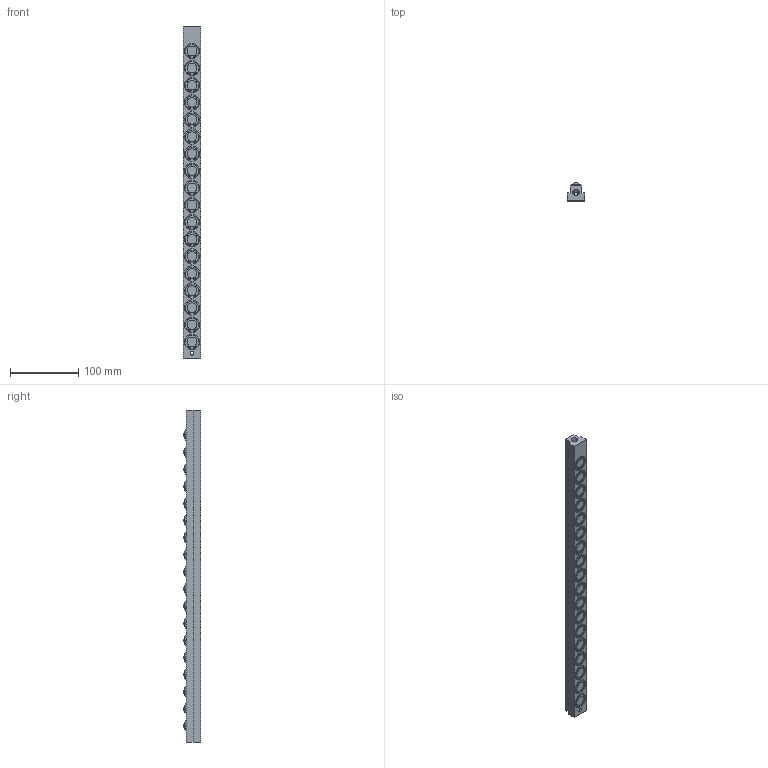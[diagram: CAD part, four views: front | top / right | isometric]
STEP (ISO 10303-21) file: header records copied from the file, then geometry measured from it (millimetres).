
FILE_DESCRIPTION (( 'STEP AP203' ), '1' );
FILE_NAME ('PVL13T-18.STEP', '2015-12-24T05:57:52', ( '' ), ( '' ), 'SwSTEP 2.0', 'SolidWorks 2013', '' );
FILE_SCHEMA (( 'CONFIG_CONTROL_DESIGN' ));
Length unit declared in the file: millimetre
Products named in the file (1): PVL13T-18
Bounding box: 25 x 26.26 x 485 mm (x, y, z)
Volume: 221430.1 mm3; surface area: 52153.9 mm2
Topology: 2 solids, 2 shells, 544 faces, 1298 edges, 868 vertices
Faces by surface type: cylinder 298, plane 166, torus 36, sphere 36, cone 8
Entity records: 16285 total; most frequent: DIRECTION 3204, CARTESIAN_POINT 2707, ORIENTED_EDGE 2588, AXIS2_PLACEMENT_3D 1365, EDGE_CURVE 1294, VERTEX_POINT 868, CIRCLE 820, EDGE_LOOP 660
